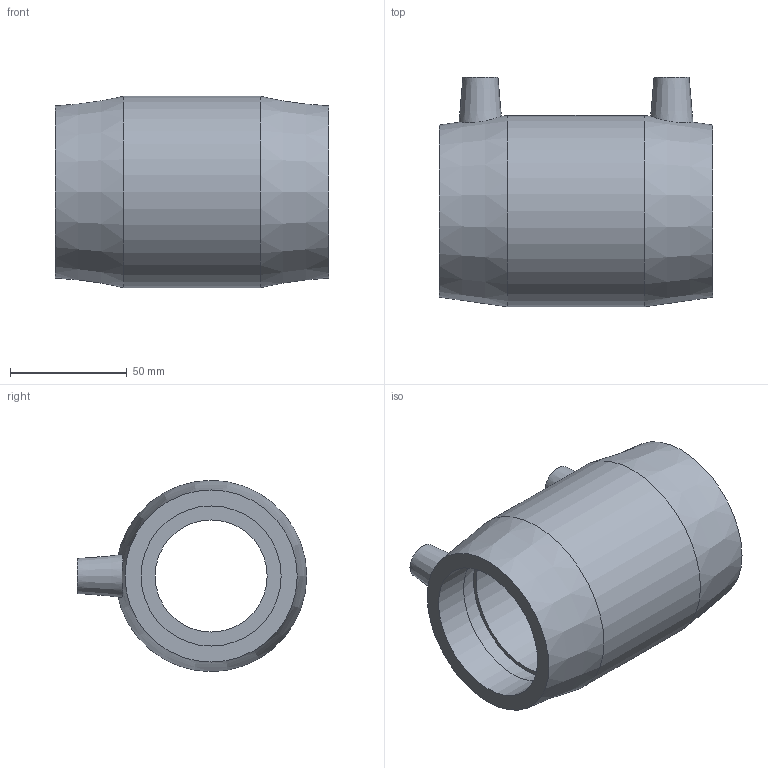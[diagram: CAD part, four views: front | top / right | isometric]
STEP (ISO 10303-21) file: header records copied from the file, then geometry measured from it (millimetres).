
FILE_DESCRIPTION(/* description */ ('PLASSON IPS COUPLER 2'''''),/* implementation_level */ '2;1');
FILE_NAME(/* name */ 'C:\Dropbox\KIMPROJECTS-Inventor 2019\99-16-3568-Processing Inch\ASTM ElectroFusion 2021\5901B\(_AS)5901B004020.ipt.stp',/* time_stamp */ '2021-08-30T09:48:30+03:00',/* author */ ('KIM'),/* organization */ (''),/* preprocessor_version */ 'ST-DEVELOPER v17.2',/* originating_system */ 'Autodesk Inventor 2019',/* authorisation */ '');
FILE_SCHEMA (('AUTOMOTIVE_DESIGN { 1 0 10303 214 3 1 1 }'));
Length unit declared in the file: inch
Products named in the file (1): *5901B004020
Bounding box: 117.09 x 98.42 x 82.04 mm (x, y, z)
Volume: 263956.6 mm3; surface area: 60175.4 mm2
Topology: 1 solids, 1 shells, 28 faces, 62 edges, 46 vertices
Faces by surface type: plane 12, cylinder 10, cone 6
Full cylindrical faces by diameter (mm): 4 x2, 10 x2, 48.08 x1, 60.1 x4, 82.042 x1
Entity records: 927 total; most frequent: CARTESIAN_POINT 205, DIRECTION 158, ORIENTED_EDGE 124, AXIS2_PLACEMENT_3D 71, EDGE_CURVE 62, VERTEX_POINT 46, CIRCLE 42, EDGE_LOOP 40
